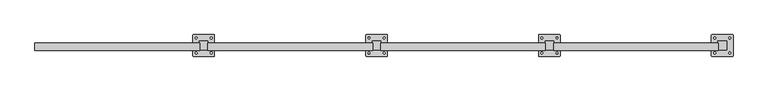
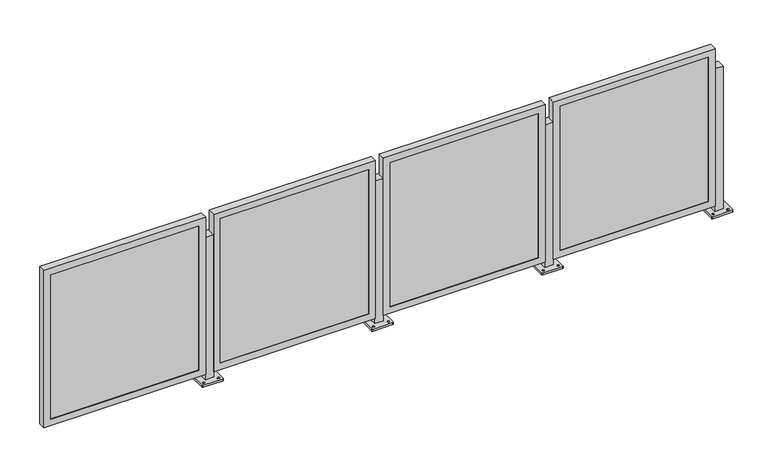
"""IFC4 building model written with IfcOpenShell, lengths in millimetres: railing geometry."""

from ifc_helpers import new_model, si_unit, frame, origin, place, context, project, spatial, polyline, circle_curve, outline, extrude, faceted_brep, source, transform, mapped, element, save
from ifc_brep_helpers import plane_surface, cylinder_surface, revolved_surface, advanced_brep


def railing_f29662bd(model_context):
    return source(origin(), model_context, "Body", "SolidModel", [
        advanced_brep(
        [(-22902.3219217, 2095.5584175, 914.4), (-22902.3219217, 2044.7584175, 914.4), (-22851.5219217, 2044.7584175, 914.4), (-22851.5219217, 2095.5584175, 914.4), (-22940.4219219, 2009.8334586, 0.0), (-22940.4219219, 2130.4833765, 0.0), (-22937.2468937, 2133.6584047, 0.0), (-22816.5969497, 2133.6584047, 0.0), (-22813.4219216, 2130.4833765, 0.0), (-22813.4219216, 2009.8334586, 0.0), (-22816.5969497, 2006.6584304, 0.0), (-22937.2468937, 2006.6584304, 0.0), (-22921.3719093, 2020.1521629, 0.0), (-22921.3719093, 2031.2646753, 0.0), (-22921.3719202, 2109.0521673, 0.0), (-22921.3719202, 2120.1646489, 0.0), (-22832.4719083, 2020.1521644, 0.0), (-22832.4719083, 2031.2646751, 0.0), (-22832.4719192, 2109.0521688, 0.0), (-22832.4719192, 2120.1646486, 0.0), (-22902.3219217, 2095.5584175, 12.7), (-22902.3219217, 2044.7584175, 12.7), (-22851.5219217, 2044.7584175, 12.7), (-22851.5219217, 2095.5584175, 12.7), (-22940.4219219, 2009.8334586, 12.7), (-22937.2468937, 2006.6584304, 12.7), (-22816.5969497, 2006.6584304, 12.7), (-22813.4219216, 2009.8334586, 12.7), (-22813.4219216, 2130.4833765, 12.7), (-22816.5969497, 2133.6584047, 12.7), (-22937.2468937, 2133.6584047, 12.7), (-22940.4219219, 2130.4833765, 12.7), (-22921.3719093, 2020.1521629, 12.7), (-22921.3719093, 2031.2646753, 12.7), (-22921.3719202, 2109.0521673, 12.7), (-22921.3719202, 2120.1646489, 12.7), (-22832.4719083, 2020.1521644, 12.7), (-22832.4719083, 2031.2646751, 12.7), (-22832.4719192, 2109.0521688, 12.7), (-22832.4719192, 2120.1646486, 12.7)],
        [
            (0, 1),
            (1, 2),
            (2, 3),
            (3, 0),
            (4, 5),
            (5, 6, circle_curve(frame((-22937.2468937, 2130.4833765, 0.0), z_axis=(0.0, 0.0, -1.0), x_axis=(0.0, 1.0, 0.0)), 3.1750282)),
            (6, 7),
            (7, 8, circle_curve(frame((-22816.5969497, 2130.4833765, 0.0), z_axis=(0.0, 0.0, -1.0), x_axis=(0.0, 1.0, 0.0)), 3.1750282)),
            (8, 9),
            (9, 10, circle_curve(frame((-22816.5969497, 2009.8334586, 0.0), z_axis=(0.0, 0.0, -1.0), x_axis=(0.0, 1.0, 0.0)), 3.1750282)),
            (10, 11),
            (11, 4, circle_curve(frame((-22937.2468937, 2009.8334586, 0.0), z_axis=(0.0, 0.0, -1.0), x_axis=(0.0, 1.0, 0.0)), 3.1750282)),
            (12, 13, circle_curve(frame((-22921.3719093, 2025.7084191, 0.0), z_axis=(0.0, 0.0, 1.0), x_axis=(0.0, 1.0, 0.0)), 5.5562562)),
            (13, 12, circle_curve(frame((-22921.3719093, 2025.7084191, 0.0), z_axis=(0.0, 0.0, 1.0), x_axis=(0.0, 1.0, 0.0)), 5.5562562)),
            (14, 15, circle_curve(frame((-22921.3719202, 2114.6084081, 0.0), z_axis=(0.0, 0.0, 1.0), x_axis=(0.0, 1.0, 0.0)), 5.5562408)),
            (15, 14, circle_curve(frame((-22921.3719202, 2114.6084081, 0.0), z_axis=(0.0, 0.0, 1.0), x_axis=(0.0, 1.0, 0.0)), 5.5562408)),
            (16, 17, circle_curve(frame((-22832.4719083, 2025.7084197, 0.0), z_axis=(0.0, 0.0, 1.0), x_axis=(0.0, 1.0, 0.0)), 5.5562553)),
            (17, 16, circle_curve(frame((-22832.4719083, 2025.7084197, 0.0), z_axis=(0.0, 0.0, 1.0), x_axis=(0.0, 1.0, 0.0)), 5.5562553)),
            (18, 19, circle_curve(frame((-22832.4719192, 2114.6084087, 0.0), z_axis=(0.0, 0.0, 1.0), x_axis=(0.0, 1.0, 0.0)), 5.5562399)),
            (19, 18, circle_curve(frame((-22832.4719192, 2114.6084087, 0.0), z_axis=(0.0, 0.0, 1.0), x_axis=(0.0, 1.0, 0.0)), 5.5562399)),
            (0, 20),
            (20, 21),
            (21, 1),
            (21, 22),
            (22, 2),
            (22, 23),
            (23, 3),
            (23, 20),
            (24, 25, circle_curve(frame((-22937.2468937, 2009.8334586, 12.7), z_axis=(0.0, 0.0, 1.0), x_axis=(0.0, 1.0, 0.0)), 3.1750282)),
            (25, 26),
            (26, 27, circle_curve(frame((-22816.5969497, 2009.8334586, 12.7), z_axis=(0.0, 0.0, 1.0), x_axis=(0.0, 1.0, 0.0)), 3.1750282)),
            (27, 28),
            (28, 29, circle_curve(frame((-22816.5969497, 2130.4833765, 12.7), z_axis=(0.0, 0.0, 1.0), x_axis=(0.0, 1.0, 0.0)), 3.1750282)),
            (29, 30),
            (30, 31, circle_curve(frame((-22937.2468937, 2130.4833765, 12.7), z_axis=(0.0, 0.0, 1.0), x_axis=(0.0, 1.0, 0.0)), 3.1750282)),
            (31, 24),
            (32, 33, circle_curve(frame((-22921.3719093, 2025.7084191, 12.7), z_axis=(0.0, 0.0, -1.0), x_axis=(0.0, 1.0, 0.0)), 5.5562562)),
            (33, 32, circle_curve(frame((-22921.3719093, 2025.7084191, 12.7), z_axis=(0.0, 0.0, -1.0), x_axis=(0.0, 1.0, 0.0)), 5.5562562)),
            (34, 35, circle_curve(frame((-22921.3719202, 2114.6084081, 12.7), z_axis=(0.0, 0.0, -1.0), x_axis=(0.0, 1.0, 0.0)), 5.5562408)),
            (35, 34, circle_curve(frame((-22921.3719202, 2114.6084081, 12.7), z_axis=(0.0, 0.0, -1.0), x_axis=(0.0, 1.0, 0.0)), 5.5562408)),
            (36, 37, circle_curve(frame((-22832.4719083, 2025.7084197, 12.7), z_axis=(0.0, 0.0, -1.0), x_axis=(0.0, 1.0, 0.0)), 5.5562553)),
            (37, 36, circle_curve(frame((-22832.4719083, 2025.7084197, 12.7), z_axis=(0.0, 0.0, -1.0), x_axis=(0.0, 1.0, 0.0)), 5.5562553)),
            (38, 39, circle_curve(frame((-22832.4719192, 2114.6084087, 12.7), z_axis=(0.0, 0.0, -1.0), x_axis=(0.0, 1.0, 0.0)), 5.5562399)),
            (39, 38, circle_curve(frame((-22832.4719192, 2114.6084087, 12.7), z_axis=(0.0, 0.0, -1.0), x_axis=(0.0, 1.0, 0.0)), 5.5562399)),
            (24, 4),
            (11, 25),
            (10, 26),
            (9, 27),
            (8, 28),
            (7, 29),
            (6, 30),
            (5, 31),
            (32, 12),
            (13, 33),
            (34, 14),
            (15, 35),
            (36, 16),
            (17, 37),
            (38, 18),
            (19, 39),
        ],
        [
            plane_surface(frame((-22902.3219217, 2044.7584175, 914.4), z_axis=(0.0, 0.0, 1.0), x_axis=(0.0, -1.0, 0.0))),
            plane_surface(frame((-22902.3219217, 2044.7584175, 0.0), z_axis=(0.0, 0.0, -1.0), x_axis=(0.0, 1.0, 0.0))),
            plane_surface(frame((-22902.3219217, 2095.5584175, 914.4), z_axis=(-1.0, 0.0, 0.0), x_axis=(0.0, 0.0, -1.0))),
            plane_surface(frame((-22902.3219217, 2044.7584175, 914.4), z_axis=(0.0, -1.0, 0.0), x_axis=(0.0, 0.0, -1.0))),
            plane_surface(frame((-22851.5219217, 2044.7584175, 914.4), z_axis=(1.0, 0.0, 0.0), x_axis=(0.0, 0.0, -1.0))),
            plane_surface(frame((-22851.5219217, 2095.5584175, 914.4), z_axis=(0.0, 1.0, 0.0), x_axis=(0.0, 0.0, -1.0))),
            plane_surface(frame((-22937.2468937, 2013.0084867, 12.7), z_axis=(0.0, 0.0, 1.0), x_axis=(-1.0, 0.0, 0.0))),
            cylinder_surface(frame((-22937.2468937, 2009.8334586, 0.0), z_axis=(0.0, 0.0, 1.0), x_axis=(0.0, 1.0, 0.0)), 3.1750282),
            plane_surface(frame((-22937.2468937, 2006.6584304, 12.7), z_axis=(1.1945386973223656e-12, -1.0, 0.0), x_axis=(0.0, 0.0, -1.0))),
            cylinder_surface(frame((-22816.5969497, 2009.8334586, 0.0), z_axis=(0.0, 0.0, 1.0), x_axis=(0.0, 1.0, 0.0)), 3.1750282),
            plane_surface(frame((-22813.4219216, 2009.8334586, 12.7), z_axis=(1.0, 0.0, 0.0), x_axis=(0.0, 0.0, -1.0))),
            cylinder_surface(frame((-22816.5969497, 2130.4833765, 0.0), z_axis=(0.0, 0.0, 1.0), x_axis=(0.0, 1.0, 0.0)), 3.1750282),
            plane_surface(frame((-22816.5969497, 2133.6584047, 12.7), z_axis=(-1.1946088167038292e-12, 1.0, 0.0), x_axis=(0.0, 0.0, -1.0))),
            cylinder_surface(frame((-22937.2468937, 2130.4833765, 0.0), z_axis=(0.0, 0.0, 1.0), x_axis=(0.0, 1.0, 0.0)), 3.1750282),
            plane_surface(frame((-22940.4219219, 2130.4833765, 12.7), z_axis=(-1.0, 0.0, 0.0), x_axis=(0.0, 0.0, -1.0))),
            revolved_surface(polyline([(-22921.3719093, 2031.2646753, 0.0), (-22921.3719093, 2031.2646753, 12.7)]), (-22921.3719093, 2025.7084191, 0.0), (0.0, 0.0, -1.0)),
            revolved_surface(polyline([(-22921.3719202, 2120.1646489, 0.0), (-22921.3719202, 2120.1646489, 12.7)]), (-22921.3719202, 2114.6084081, 0.0), (0.0, 0.0, -1.0)),
            revolved_surface(polyline([(-22832.4719083, 2031.264675, 0.0), (-22832.4719083, 2031.264675, 12.7)]), (-22832.4719083, 2025.7084197, 0.0), (0.0, 0.0, -1.0)),
            revolved_surface(polyline([(-22832.4719192, 2120.1646486, 0.0), (-22832.4719192, 2120.1646486, 12.7)]), (-22832.4719192, 2114.6084087, 0.0), (0.0, 0.0, -1.0)),
        ],
        [
            (0, [[1, 2, 3, 4]]),
            (1, [[5, 6, 7, 8, 9, 10, 11, 12], [13, 14], [15, 16], [17, 18], [19, 20]]),
            (2, [[-1, 21, 22, 23]]),
            (3, [[-2, -23, 24, 25]]),
            (4, [[-3, -25, 26, 27]]),
            (5, [[-4, -27, 28, -21]]),
            (6, [[29, 30, 31, 32, 33, 34, 35, 36], [-22, -28, -26, -24], [37, 38], [39, 40], [41, 42], [43, 44]]),
            (7, [[-29, 45, -12, 46]]),
            (8, [[-30, -46, -11, 47]]),
            (9, [[-31, -47, -10, 48]]),
            (10, [[-32, -48, -9, 49]]),
            (11, [[-33, -49, -8, 50]]),
            (12, [[-34, -50, -7, 51]]),
            (13, [[-35, -51, -6, 52]]),
            (14, [[-36, -52, -5, -45]]),
            (15, [[-37, 53, -14, 54]]),
            (15, [[-38, -54, -13, -53]]),
            (16, [[-39, 55, -16, 56]]),
            (16, [[-40, -56, -15, -55]]),
            (17, [[-41, 57, -18, 58]]),
            (17, [[-42, -58, -17, -57]]),
            (18, [[-43, 59, -20, 60]]),
            (18, [[-44, -60, -19, -59]]),
        ],
    ),
        faceted_brep([(-23868.7263751, 2042.0152175, 47.625), (-22900.3513751, 2042.0152175, 47.625), (-22900.3513751, 2042.0152175, 1044.575), (-23868.7263751, 2042.0152175, 1044.575), (-23827.4513751, 2042.0152175, 1003.3), (-22941.6263751, 2042.0152175, 1003.3), (-22941.6263751, 2042.0152175, 88.9), (-23827.4513751, 2042.0152175, 88.9), (-23827.4513751, 2044.7584175, 1003.3), (-23827.4513751, 2044.7584175, 88.9), (-23868.7263751, 2085.8885141, 1044.575), (-23868.7263751, 2085.8885141, 47.625), (-23865.5513751, 2085.8885141, 1041.4), (-23865.5513751, 2044.7584175, 1041.4), (-23865.5513751, 2044.7584175, 50.8), (-23865.5513751, 2085.8885141, 50.8), (-22941.6263751, 2044.7584175, 88.9), (-22900.3513751, 2085.8885141, 47.625), (-22903.5263751, 2044.7584175, 50.8), (-22903.5263751, 2085.8885141, 50.8), (-22941.6263751, 2044.7584175, 1003.3), (-22900.3513751, 2085.8885141, 1044.575), (-22903.5263751, 2044.7584175, 1041.4), (-22903.5263751, 2085.8885141, 1041.4)], [[[0, 1, 2, 3], [4, 5, 6, 7]], [[8, 4, 7, 9]], [[3, 10, 11, 0]], [[12, 13, 14, 15]], [[9, 7, 6, 16]], [[0, 11, 17, 1]], [[15, 14, 18, 19]], [[16, 6, 5, 20]], [[1, 17, 21, 2]], [[19, 18, 22, 23]], [[20, 5, 4, 8]], [[10, 21, 17, 11], [15, 19, 23, 12]], [[2, 21, 10, 3]], [[13, 22, 18, 14], [9, 16, 20, 8]], [[23, 22, 13, 12]]]),
        extrude(outline(polyline([(-23865.5513751, 2054.2834175), (-22903.5263751, 2054.2834175), (-22903.5263751, 2044.7584175), (-23865.5513751, 2044.7584175), (-23865.5513751, 2054.2834175)])), frame((0.0, 0.0, 50.8), z_axis=(0.0, 0.0, 1.0), x_axis=(1.0, 0.0, 0.0)), (0.0, 0.0, 1.0), 990.6),
        advanced_brep(
        [(-23918.3219217, 2095.5584175, 914.4), (-23918.3219217, 2044.7584175, 914.4), (-23867.5219217, 2044.7584175, 914.4), (-23867.5219217, 2095.5584175, 914.4), (-23956.4219219, 2009.8334586, 0.0), (-23956.4219219, 2130.4833765, 0.0), (-23953.2468937, 2133.6584047, 0.0), (-23832.5969497, 2133.6584047, 0.0), (-23829.4219216, 2130.4833765, 0.0), (-23829.4219216, 2009.8334586, 0.0), (-23832.5969497, 2006.6584304, 0.0), (-23953.2468937, 2006.6584304, 0.0), (-23937.3719093, 2020.1521629, 0.0), (-23937.3719093, 2031.2646753, 0.0), (-23937.3719202, 2109.0521673, 0.0), (-23937.3719202, 2120.1646489, 0.0), (-23848.4719083, 2020.1521644, 0.0), (-23848.4719083, 2031.2646751, 0.0), (-23848.4719192, 2109.0521688, 0.0), (-23848.4719192, 2120.1646486, 0.0), (-23918.3219217, 2095.5584175, 12.7), (-23918.3219217, 2044.7584175, 12.7), (-23867.5219217, 2044.7584175, 12.7), (-23867.5219217, 2095.5584175, 12.7), (-23956.4219219, 2009.8334586, 12.7), (-23953.2468937, 2006.6584304, 12.7), (-23832.5969497, 2006.6584304, 12.7), (-23829.4219216, 2009.8334586, 12.7), (-23829.4219216, 2130.4833765, 12.7), (-23832.5969497, 2133.6584047, 12.7), (-23953.2468937, 2133.6584047, 12.7), (-23956.4219219, 2130.4833765, 12.7), (-23937.3719093, 2020.1521629, 12.7), (-23937.3719093, 2031.2646753, 12.7), (-23937.3719202, 2109.0521673, 12.7), (-23937.3719202, 2120.1646489, 12.7), (-23848.4719083, 2020.1521644, 12.7), (-23848.4719083, 2031.2646751, 12.7), (-23848.4719192, 2109.0521688, 12.7), (-23848.4719192, 2120.1646486, 12.7)],
        [
            (0, 1),
            (1, 2),
            (2, 3),
            (3, 0),
            (4, 5),
            (5, 6, circle_curve(frame((-23953.2468937, 2130.4833765, 0.0), z_axis=(0.0, 0.0, -1.0), x_axis=(0.0, 1.0, 0.0)), 3.1750282)),
            (6, 7),
            (7, 8, circle_curve(frame((-23832.5969497, 2130.4833765, 0.0), z_axis=(0.0, 0.0, -1.0), x_axis=(0.0, 1.0, 0.0)), 3.1750282)),
            (8, 9),
            (9, 10, circle_curve(frame((-23832.5969497, 2009.8334586, 0.0), z_axis=(0.0, 0.0, -1.0), x_axis=(0.0, 1.0, 0.0)), 3.1750282)),
            (10, 11),
            (11, 4, circle_curve(frame((-23953.2468937, 2009.8334586, 0.0), z_axis=(0.0, 0.0, -1.0), x_axis=(0.0, 1.0, 0.0)), 3.1750282)),
            (12, 13, circle_curve(frame((-23937.3719093, 2025.7084191, 0.0), z_axis=(0.0, 0.0, 1.0), x_axis=(0.0, 1.0, 0.0)), 5.5562562)),
            (13, 12, circle_curve(frame((-23937.3719093, 2025.7084191, 0.0), z_axis=(0.0, 0.0, 1.0), x_axis=(0.0, 1.0, 0.0)), 5.5562562)),
            (14, 15, circle_curve(frame((-23937.3719202, 2114.6084081, 0.0), z_axis=(0.0, 0.0, 1.0), x_axis=(0.0, 1.0, 0.0)), 5.5562408)),
            (15, 14, circle_curve(frame((-23937.3719202, 2114.6084081, 0.0), z_axis=(0.0, 0.0, 1.0), x_axis=(0.0, 1.0, 0.0)), 5.5562408)),
            (16, 17, circle_curve(frame((-23848.4719083, 2025.7084197, 0.0), z_axis=(0.0, 0.0, 1.0), x_axis=(0.0, 1.0, 0.0)), 5.5562553)),
            (17, 16, circle_curve(frame((-23848.4719083, 2025.7084197, 0.0), z_axis=(0.0, 0.0, 1.0), x_axis=(0.0, 1.0, 0.0)), 5.5562553)),
            (18, 19, circle_curve(frame((-23848.4719192, 2114.6084087, 0.0), z_axis=(0.0, 0.0, 1.0), x_axis=(0.0, 1.0, 0.0)), 5.5562399)),
            (19, 18, circle_curve(frame((-23848.4719192, 2114.6084087, 0.0), z_axis=(0.0, 0.0, 1.0), x_axis=(0.0, 1.0, 0.0)), 5.5562399)),
            (0, 20),
            (20, 21),
            (21, 1),
            (21, 22),
            (22, 2),
            (22, 23),
            (23, 3),
            (23, 20),
            (24, 25, circle_curve(frame((-23953.2468937, 2009.8334586, 12.7), z_axis=(0.0, 0.0, 1.0), x_axis=(0.0, 1.0, 0.0)), 3.1750282)),
            (25, 26),
            (26, 27, circle_curve(frame((-23832.5969497, 2009.8334586, 12.7), z_axis=(0.0, 0.0, 1.0), x_axis=(0.0, 1.0, 0.0)), 3.1750282)),
            (27, 28),
            (28, 29, circle_curve(frame((-23832.5969497, 2130.4833765, 12.7), z_axis=(0.0, 0.0, 1.0), x_axis=(0.0, 1.0, 0.0)), 3.1750282)),
            (29, 30),
            (30, 31, circle_curve(frame((-23953.2468937, 2130.4833765, 12.7), z_axis=(0.0, 0.0, 1.0), x_axis=(0.0, 1.0, 0.0)), 3.1750282)),
            (31, 24),
            (32, 33, circle_curve(frame((-23937.3719093, 2025.7084191, 12.7), z_axis=(0.0, 0.0, -1.0), x_axis=(0.0, 1.0, 0.0)), 5.5562562)),
            (33, 32, circle_curve(frame((-23937.3719093, 2025.7084191, 12.7), z_axis=(0.0, 0.0, -1.0), x_axis=(0.0, 1.0, 0.0)), 5.5562562)),
            (34, 35, circle_curve(frame((-23937.3719202, 2114.6084081, 12.7), z_axis=(0.0, 0.0, -1.0), x_axis=(0.0, 1.0, 0.0)), 5.5562408)),
            (35, 34, circle_curve(frame((-23937.3719202, 2114.6084081, 12.7), z_axis=(0.0, 0.0, -1.0), x_axis=(0.0, 1.0, 0.0)), 5.5562408)),
            (36, 37, circle_curve(frame((-23848.4719083, 2025.7084197, 12.7), z_axis=(0.0, 0.0, -1.0), x_axis=(0.0, 1.0, 0.0)), 5.5562553)),
            (37, 36, circle_curve(frame((-23848.4719083, 2025.7084197, 12.7), z_axis=(0.0, 0.0, -1.0), x_axis=(0.0, 1.0, 0.0)), 5.5562553)),
            (38, 39, circle_curve(frame((-23848.4719192, 2114.6084087, 12.7), z_axis=(0.0, 0.0, -1.0), x_axis=(0.0, 1.0, 0.0)), 5.5562399)),
            (39, 38, circle_curve(frame((-23848.4719192, 2114.6084087, 12.7), z_axis=(0.0, 0.0, -1.0), x_axis=(0.0, 1.0, 0.0)), 5.5562399)),
            (24, 4),
            (11, 25),
            (10, 26),
            (9, 27),
            (8, 28),
            (7, 29),
            (6, 30),
            (5, 31),
            (32, 12),
            (13, 33),
            (34, 14),
            (15, 35),
            (36, 16),
            (17, 37),
            (38, 18),
            (19, 39),
        ],
        [
            plane_surface(frame((-23918.3219217, 2044.7584175, 914.4), z_axis=(0.0, 0.0, 1.0), x_axis=(0.0, -1.0, 0.0))),
            plane_surface(frame((-23918.3219217, 2044.7584175, 0.0), z_axis=(0.0, 0.0, -1.0), x_axis=(0.0, 1.0, 0.0))),
            plane_surface(frame((-23918.3219217, 2095.5584175, 914.4), z_axis=(-1.0, 0.0, 0.0), x_axis=(0.0, 0.0, -1.0))),
            plane_surface(frame((-23918.3219217, 2044.7584175, 914.4), z_axis=(0.0, -1.0, 0.0), x_axis=(0.0, 0.0, -1.0))),
            plane_surface(frame((-23867.5219217, 2044.7584175, 914.4), z_axis=(1.0, 0.0, 0.0), x_axis=(0.0, 0.0, -1.0))),
            plane_surface(frame((-23867.5219217, 2095.5584175, 914.4), z_axis=(0.0, 1.0, 0.0), x_axis=(0.0, 0.0, -1.0))),
            plane_surface(frame((-23953.2468937, 2013.0084867, 12.7), z_axis=(0.0, 0.0, 1.0), x_axis=(-1.0, 0.0, 0.0))),
            cylinder_surface(frame((-23953.2468937, 2009.8334586, 0.0), z_axis=(0.0, 0.0, 1.0), x_axis=(0.0, 1.0, 0.0)), 3.1750282),
            plane_surface(frame((-23953.2468937, 2006.6584304, 12.7), z_axis=(1.1945386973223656e-12, -1.0, 0.0), x_axis=(0.0, 0.0, -1.0))),
            cylinder_surface(frame((-23832.5969497, 2009.8334586, 0.0), z_axis=(0.0, 0.0, 1.0), x_axis=(0.0, 1.0, 0.0)), 3.1750282),
            plane_surface(frame((-23829.4219216, 2009.8334586, 12.7), z_axis=(1.0, 0.0, 0.0), x_axis=(0.0, 0.0, -1.0))),
            cylinder_surface(frame((-23832.5969497, 2130.4833765, 0.0), z_axis=(0.0, 0.0, 1.0), x_axis=(0.0, 1.0, 0.0)), 3.1750282),
            plane_surface(frame((-23832.5969497, 2133.6584047, 12.7), z_axis=(-1.1946088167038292e-12, 1.0, 0.0), x_axis=(0.0, 0.0, -1.0))),
            cylinder_surface(frame((-23953.2468937, 2130.4833765, 0.0), z_axis=(0.0, 0.0, 1.0), x_axis=(0.0, 1.0, 0.0)), 3.1750282),
            plane_surface(frame((-23956.4219219, 2130.4833765, 12.7), z_axis=(-1.0, 0.0, 0.0), x_axis=(0.0, 0.0, -1.0))),
            revolved_surface(polyline([(-23937.3719093, 2031.2646753, 0.0), (-23937.3719093, 2031.2646753, 12.7)]), (-23937.3719093, 2025.7084191, 0.0), (0.0, 0.0, -1.0)),
            revolved_surface(polyline([(-23937.3719202, 2120.1646489, 0.0), (-23937.3719202, 2120.1646489, 12.7)]), (-23937.3719202, 2114.6084081, 0.0), (0.0, 0.0, -1.0)),
            revolved_surface(polyline([(-23848.4719083, 2031.264675, 0.0), (-23848.4719083, 2031.264675, 12.7)]), (-23848.4719083, 2025.7084197, 0.0), (0.0, 0.0, -1.0)),
            revolved_surface(polyline([(-23848.4719192, 2120.1646486, 0.0), (-23848.4719192, 2120.1646486, 12.7)]), (-23848.4719192, 2114.6084087, 0.0), (0.0, 0.0, -1.0)),
        ],
        [
            (0, [[1, 2, 3, 4]]),
            (1, [[5, 6, 7, 8, 9, 10, 11, 12], [13, 14], [15, 16], [17, 18], [19, 20]]),
            (2, [[-1, 21, 22, 23]]),
            (3, [[-2, -23, 24, 25]]),
            (4, [[-3, -25, 26, 27]]),
            (5, [[-4, -27, 28, -21]]),
            (6, [[29, 30, 31, 32, 33, 34, 35, 36], [-22, -28, -26, -24], [37, 38], [39, 40], [41, 42], [43, 44]]),
            (7, [[-29, 45, -12, 46]]),
            (8, [[-30, -46, -11, 47]]),
            (9, [[-31, -47, -10, 48]]),
            (10, [[-32, -48, -9, 49]]),
            (11, [[-33, -49, -8, 50]]),
            (12, [[-34, -50, -7, 51]]),
            (13, [[-35, -51, -6, 52]]),
            (14, [[-36, -52, -5, -45]]),
            (15, [[-37, 53, -14, 54]]),
            (15, [[-38, -54, -13, -53]]),
            (16, [[-39, 55, -16, 56]]),
            (16, [[-40, -56, -15, -55]]),
            (17, [[-41, 57, -18, 58]]),
            (17, [[-42, -58, -17, -57]]),
            (18, [[-43, 59, -20, 60]]),
            (18, [[-44, -60, -19, -59]]),
        ],
    ),
        faceted_brep([(-24884.7263751, 2042.0152175, 47.625), (-23916.3513751, 2042.0152175, 47.625), (-23916.3513751, 2042.0152175, 1044.575), (-24884.7263751, 2042.0152175, 1044.575), (-24843.4513751, 2042.0152175, 1003.3), (-23957.6263751, 2042.0152175, 1003.3), (-23957.6263751, 2042.0152175, 88.9), (-24843.4513751, 2042.0152175, 88.9), (-24843.4513751, 2044.7584175, 1003.3), (-24843.4513751, 2044.7584175, 88.9), (-24884.7263751, 2085.8885141, 1044.575), (-24884.7263751, 2085.8885141, 47.625), (-24881.5513751, 2085.8885141, 1041.4), (-24881.5513751, 2044.7584175, 1041.4), (-24881.5513751, 2044.7584175, 50.8), (-24881.5513751, 2085.8885141, 50.8), (-23957.6263751, 2044.7584175, 88.9), (-23916.3513751, 2085.8885141, 47.625), (-23919.5263751, 2044.7584175, 50.8), (-23919.5263751, 2085.8885141, 50.8), (-23957.6263751, 2044.7584175, 1003.3), (-23916.3513751, 2085.8885141, 1044.575), (-23919.5263751, 2044.7584175, 1041.4), (-23919.5263751, 2085.8885141, 1041.4)], [[[0, 1, 2, 3], [4, 5, 6, 7]], [[8, 4, 7, 9]], [[3, 10, 11, 0]], [[12, 13, 14, 15]], [[9, 7, 6, 16]], [[0, 11, 17, 1]], [[15, 14, 18, 19]], [[16, 6, 5, 20]], [[1, 17, 21, 2]], [[19, 18, 22, 23]], [[20, 5, 4, 8]], [[10, 21, 17, 11], [15, 19, 23, 12]], [[2, 21, 10, 3]], [[13, 22, 18, 14], [9, 16, 20, 8]], [[23, 22, 13, 12]]]),
        extrude(outline(polyline([(-24881.5513751, 2054.2834175), (-23919.5263751, 2054.2834175), (-23919.5263751, 2044.7584175), (-24881.5513751, 2044.7584175), (-24881.5513751, 2054.2834175)])), frame((0.0, 0.0, 50.8), z_axis=(0.0, 0.0, 1.0), x_axis=(1.0, 0.0, 0.0)), (0.0, 0.0, 1.0), 990.6),
        advanced_brep(
        [(-24934.3219217, 2095.5584175, 914.4), (-24934.3219217, 2044.7584175, 914.4), (-24883.5219217, 2044.7584175, 914.4), (-24883.5219217, 2095.5584175, 914.4), (-24972.4219219, 2009.8334586, 0.0), (-24972.4219219, 2130.4833765, 0.0), (-24969.2468937, 2133.6584047, 0.0), (-24848.5969497, 2133.6584047, 0.0), (-24845.4219216, 2130.4833765, 0.0), (-24845.4219216, 2009.8334586, 0.0), (-24848.5969497, 2006.6584304, 0.0), (-24969.2468937, 2006.6584304, 0.0), (-24953.3719093, 2020.1521629, 0.0), (-24953.3719093, 2031.2646753, 0.0), (-24953.3719202, 2109.0521673, 0.0), (-24953.3719202, 2120.1646489, 0.0), (-24864.4719083, 2020.1521644, 0.0), (-24864.4719083, 2031.2646751, 0.0), (-24864.4719192, 2109.0521688, 0.0), (-24864.4719192, 2120.1646486, 0.0), (-24934.3219217, 2095.5584175, 12.7), (-24934.3219217, 2044.7584175, 12.7), (-24883.5219217, 2044.7584175, 12.7), (-24883.5219217, 2095.5584175, 12.7), (-24972.4219219, 2009.8334586, 12.7), (-24969.2468937, 2006.6584304, 12.7), (-24848.5969497, 2006.6584304, 12.7), (-24845.4219216, 2009.8334586, 12.7), (-24845.4219216, 2130.4833765, 12.7), (-24848.5969497, 2133.6584047, 12.7), (-24969.2468937, 2133.6584047, 12.7), (-24972.4219219, 2130.4833765, 12.7), (-24953.3719093, 2020.1521629, 12.7), (-24953.3719093, 2031.2646753, 12.7), (-24953.3719202, 2109.0521673, 12.7), (-24953.3719202, 2120.1646489, 12.7), (-24864.4719083, 2020.1521644, 12.7), (-24864.4719083, 2031.2646751, 12.7), (-24864.4719192, 2109.0521688, 12.7), (-24864.4719192, 2120.1646486, 12.7)],
        [
            (0, 1),
            (1, 2),
            (2, 3),
            (3, 0),
            (4, 5),
            (5, 6, circle_curve(frame((-24969.2468937, 2130.4833765, 0.0), z_axis=(0.0, 0.0, -1.0), x_axis=(0.0, 1.0, 0.0)), 3.1750282)),
            (6, 7),
            (7, 8, circle_curve(frame((-24848.5969497, 2130.4833765, 0.0), z_axis=(0.0, 0.0, -1.0), x_axis=(0.0, 1.0, 0.0)), 3.1750282)),
            (8, 9),
            (9, 10, circle_curve(frame((-24848.5969497, 2009.8334586, 0.0), z_axis=(0.0, 0.0, -1.0), x_axis=(0.0, 1.0, 0.0)), 3.1750282)),
            (10, 11),
            (11, 4, circle_curve(frame((-24969.2468937, 2009.8334586, 0.0), z_axis=(0.0, 0.0, -1.0), x_axis=(0.0, 1.0, 0.0)), 3.1750282)),
            (12, 13, circle_curve(frame((-24953.3719093, 2025.7084191, 0.0), z_axis=(0.0, 0.0, 1.0), x_axis=(0.0, 1.0, 0.0)), 5.5562562)),
            (13, 12, circle_curve(frame((-24953.3719093, 2025.7084191, 0.0), z_axis=(0.0, 0.0, 1.0), x_axis=(0.0, 1.0, 0.0)), 5.5562562)),
            (14, 15, circle_curve(frame((-24953.3719202, 2114.6084081, 0.0), z_axis=(0.0, 0.0, 1.0), x_axis=(0.0, 1.0, 0.0)), 5.5562408)),
            (15, 14, circle_curve(frame((-24953.3719202, 2114.6084081, 0.0), z_axis=(0.0, 0.0, 1.0), x_axis=(0.0, 1.0, 0.0)), 5.5562408)),
            (16, 17, circle_curve(frame((-24864.4719083, 2025.7084197, 0.0), z_axis=(0.0, 0.0, 1.0), x_axis=(0.0, 1.0, 0.0)), 5.5562553)),
            (17, 16, circle_curve(frame((-24864.4719083, 2025.7084197, 0.0), z_axis=(0.0, 0.0, 1.0), x_axis=(0.0, 1.0, 0.0)), 5.5562553)),
            (18, 19, circle_curve(frame((-24864.4719192, 2114.6084087, 0.0), z_axis=(0.0, 0.0, 1.0), x_axis=(0.0, 1.0, 0.0)), 5.5562399)),
            (19, 18, circle_curve(frame((-24864.4719192, 2114.6084087, 0.0), z_axis=(0.0, 0.0, 1.0), x_axis=(0.0, 1.0, 0.0)), 5.5562399)),
            (0, 20),
            (20, 21),
            (21, 1),
            (21, 22),
            (22, 2),
            (22, 23),
            (23, 3),
            (23, 20),
            (24, 25, circle_curve(frame((-24969.2468937, 2009.8334586, 12.7), z_axis=(0.0, 0.0, 1.0), x_axis=(0.0, 1.0, 0.0)), 3.1750282)),
            (25, 26),
            (26, 27, circle_curve(frame((-24848.5969497, 2009.8334586, 12.7), z_axis=(0.0, 0.0, 1.0), x_axis=(0.0, 1.0, 0.0)), 3.1750282)),
            (27, 28),
            (28, 29, circle_curve(frame((-24848.5969497, 2130.4833765, 12.7), z_axis=(0.0, 0.0, 1.0), x_axis=(0.0, 1.0, 0.0)), 3.1750282)),
            (29, 30),
            (30, 31, circle_curve(frame((-24969.2468937, 2130.4833765, 12.7), z_axis=(0.0, 0.0, 1.0), x_axis=(0.0, 1.0, 0.0)), 3.1750282)),
            (31, 24),
            (32, 33, circle_curve(frame((-24953.3719093, 2025.7084191, 12.7), z_axis=(0.0, 0.0, -1.0), x_axis=(0.0, 1.0, 0.0)), 5.5562562)),
            (33, 32, circle_curve(frame((-24953.3719093, 2025.7084191, 12.7), z_axis=(0.0, 0.0, -1.0), x_axis=(0.0, 1.0, 0.0)), 5.5562562)),
            (34, 35, circle_curve(frame((-24953.3719202, 2114.6084081, 12.7), z_axis=(0.0, 0.0, -1.0), x_axis=(0.0, 1.0, 0.0)), 5.5562408)),
            (35, 34, circle_curve(frame((-24953.3719202, 2114.6084081, 12.7), z_axis=(0.0, 0.0, -1.0), x_axis=(0.0, 1.0, 0.0)), 5.5562408)),
            (36, 37, circle_curve(frame((-24864.4719083, 2025.7084197, 12.7), z_axis=(0.0, 0.0, -1.0), x_axis=(0.0, 1.0, 0.0)), 5.5562553)),
            (37, 36, circle_curve(frame((-24864.4719083, 2025.7084197, 12.7), z_axis=(0.0, 0.0, -1.0), x_axis=(0.0, 1.0, 0.0)), 5.5562553)),
            (38, 39, circle_curve(frame((-24864.4719192, 2114.6084087, 12.7), z_axis=(0.0, 0.0, -1.0), x_axis=(0.0, 1.0, 0.0)), 5.5562399)),
            (39, 38, circle_curve(frame((-24864.4719192, 2114.6084087, 12.7), z_axis=(0.0, 0.0, -1.0), x_axis=(0.0, 1.0, 0.0)), 5.5562399)),
            (24, 4),
            (11, 25),
            (10, 26),
            (9, 27),
            (8, 28),
            (7, 29),
            (6, 30),
            (5, 31),
            (32, 12),
            (13, 33),
            (34, 14),
            (15, 35),
            (36, 16),
            (17, 37),
            (38, 18),
            (19, 39),
        ],
        [
            plane_surface(frame((-24934.3219217, 2044.7584175, 914.4), z_axis=(0.0, 0.0, 1.0), x_axis=(0.0, -1.0, 0.0))),
            plane_surface(frame((-24934.3219217, 2044.7584175, 0.0), z_axis=(0.0, 0.0, -1.0), x_axis=(0.0, 1.0, 0.0))),
            plane_surface(frame((-24934.3219217, 2095.5584175, 914.4), z_axis=(-1.0, 0.0, 0.0), x_axis=(0.0, 0.0, -1.0))),
            plane_surface(frame((-24934.3219217, 2044.7584175, 914.4), z_axis=(0.0, -1.0, 0.0), x_axis=(0.0, 0.0, -1.0))),
            plane_surface(frame((-24883.5219217, 2044.7584175, 914.4), z_axis=(1.0, 0.0, 0.0), x_axis=(0.0, 0.0, -1.0))),
            plane_surface(frame((-24883.5219217, 2095.5584175, 914.4), z_axis=(0.0, 1.0, 0.0), x_axis=(0.0, 0.0, -1.0))),
            plane_surface(frame((-24969.2468937, 2013.0084867, 12.7), z_axis=(0.0, 0.0, 1.0), x_axis=(-1.0, 0.0, 0.0))),
            cylinder_surface(frame((-24969.2468937, 2009.8334586, 0.0), z_axis=(0.0, 0.0, 1.0), x_axis=(0.0, 1.0, 0.0)), 3.1750282),
            plane_surface(frame((-24969.2468937, 2006.6584304, 12.7), z_axis=(1.1945386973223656e-12, -1.0, 0.0), x_axis=(0.0, 0.0, -1.0))),
            cylinder_surface(frame((-24848.5969497, 2009.8334586, 0.0), z_axis=(0.0, 0.0, 1.0), x_axis=(0.0, 1.0, 0.0)), 3.1750282),
            plane_surface(frame((-24845.4219216, 2009.8334586, 12.7), z_axis=(1.0, 0.0, 0.0), x_axis=(0.0, 0.0, -1.0))),
            cylinder_surface(frame((-24848.5969497, 2130.4833765, 0.0), z_axis=(0.0, 0.0, 1.0), x_axis=(0.0, 1.0, 0.0)), 3.1750282),
            plane_surface(frame((-24848.5969497, 2133.6584047, 12.7), z_axis=(-1.1946088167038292e-12, 1.0, 0.0), x_axis=(0.0, 0.0, -1.0))),
            cylinder_surface(frame((-24969.2468937, 2130.4833765, 0.0), z_axis=(0.0, 0.0, 1.0), x_axis=(0.0, 1.0, 0.0)), 3.1750282),
            plane_surface(frame((-24972.4219219, 2130.4833765, 12.7), z_axis=(-1.0, 0.0, 0.0), x_axis=(0.0, 0.0, -1.0))),
            revolved_surface(polyline([(-24953.3719093, 2031.2646753, 0.0), (-24953.3719093, 2031.2646753, 12.7)]), (-24953.3719093, 2025.7084191, 0.0), (0.0, 0.0, -1.0)),
            revolved_surface(polyline([(-24953.3719202, 2120.1646489, 0.0), (-24953.3719202, 2120.1646489, 12.7)]), (-24953.3719202, 2114.6084081, 0.0), (0.0, 0.0, -1.0)),
            revolved_surface(polyline([(-24864.4719083, 2031.264675, 0.0), (-24864.4719083, 2031.264675, 12.7)]), (-24864.4719083, 2025.7084197, 0.0), (0.0, 0.0, -1.0)),
            revolved_surface(polyline([(-24864.4719192, 2120.1646486, 0.0), (-24864.4719192, 2120.1646486, 12.7)]), (-24864.4719192, 2114.6084087, 0.0), (0.0, 0.0, -1.0)),
        ],
        [
            (0, [[1, 2, 3, 4]]),
            (1, [[5, 6, 7, 8, 9, 10, 11, 12], [13, 14], [15, 16], [17, 18], [19, 20]]),
            (2, [[-1, 21, 22, 23]]),
            (3, [[-2, -23, 24, 25]]),
            (4, [[-3, -25, 26, 27]]),
            (5, [[-4, -27, 28, -21]]),
            (6, [[29, 30, 31, 32, 33, 34, 35, 36], [-22, -28, -26, -24], [37, 38], [39, 40], [41, 42], [43, 44]]),
            (7, [[-29, 45, -12, 46]]),
            (8, [[-30, -46, -11, 47]]),
            (9, [[-31, -47, -10, 48]]),
            (10, [[-32, -48, -9, 49]]),
            (11, [[-33, -49, -8, 50]]),
            (12, [[-34, -50, -7, 51]]),
            (13, [[-35, -51, -6, 52]]),
            (14, [[-36, -52, -5, -45]]),
            (15, [[-37, 53, -14, 54]]),
            (15, [[-38, -54, -13, -53]]),
            (16, [[-39, 55, -16, 56]]),
            (16, [[-40, -56, -15, -55]]),
            (17, [[-41, 57, -18, 58]]),
            (17, [[-42, -58, -17, -57]]),
            (18, [[-43, 59, -20, 60]]),
            (18, [[-44, -60, -19, -59]]),
        ],
    ),
        faceted_brep([(-25900.7263751, 2042.0152175, 47.625), (-24932.3513751, 2042.0152175, 47.625), (-24932.3513751, 2042.0152175, 1044.575), (-25900.7263751, 2042.0152175, 1044.575), (-25859.4513751, 2042.0152175, 1003.3), (-24973.6263751, 2042.0152175, 1003.3), (-24973.6263751, 2042.0152175, 88.9), (-25859.4513751, 2042.0152175, 88.9), (-25859.4513751, 2044.7584175, 1003.3), (-25859.4513751, 2044.7584175, 88.9), (-25900.7263751, 2085.8885141, 1044.575), (-25900.7263751, 2085.8885141, 47.625), (-25897.5513751, 2085.8885141, 1041.4), (-25897.5513751, 2044.7584175, 1041.4), (-25897.5513751, 2044.7584175, 50.8), (-25897.5513751, 2085.8885141, 50.8), (-24973.6263751, 2044.7584175, 88.9), (-24932.3513751, 2085.8885141, 47.625), (-24935.5263751, 2044.7584175, 50.8), (-24935.5263751, 2085.8885141, 50.8), (-24973.6263751, 2044.7584175, 1003.3), (-24932.3513751, 2085.8885141, 1044.575), (-24935.5263751, 2044.7584175, 1041.4), (-24935.5263751, 2085.8885141, 1041.4)], [[[0, 1, 2, 3], [4, 5, 6, 7]], [[8, 4, 7, 9]], [[3, 10, 11, 0]], [[12, 13, 14, 15]], [[9, 7, 6, 16]], [[0, 11, 17, 1]], [[15, 14, 18, 19]], [[16, 6, 5, 20]], [[1, 17, 21, 2]], [[19, 18, 22, 23]], [[20, 5, 4, 8]], [[10, 21, 17, 11], [15, 19, 23, 12]], [[2, 21, 10, 3]], [[13, 22, 18, 14], [9, 16, 20, 8]], [[23, 22, 13, 12]]]),
        extrude(outline(polyline([(-25897.5513751, 2054.2834175), (-24935.5263751, 2054.2834175), (-24935.5263751, 2044.7584175), (-25897.5513751, 2044.7584175), (-25897.5513751, 2054.2834175)])), frame((0.0, 0.0, 50.8), z_axis=(0.0, 0.0, 1.0), x_axis=(1.0, 0.0, 0.0)), (0.0, 0.0, 1.0), 990.6),
        advanced_brep(
        [(-25950.3219217, 2095.5584175, 914.4), (-25950.3219217, 2044.7584175, 914.4), (-25899.5219217, 2044.7584175, 914.4), (-25899.5219217, 2095.5584175, 914.4), (-25988.4219219, 2009.8334586, 0.0), (-25988.4219219, 2130.4833765, 0.0), (-25985.2468937, 2133.6584047, 0.0), (-25864.5969497, 2133.6584047, 0.0), (-25861.4219216, 2130.4833765, 0.0), (-25861.4219216, 2009.8334586, 0.0), (-25864.5969497, 2006.6584304, 0.0), (-25985.2468937, 2006.6584304, 0.0), (-25969.3719093, 2020.1521629, 0.0), (-25969.3719093, 2031.2646753, 0.0), (-25969.3719202, 2109.0521673, 0.0), (-25969.3719202, 2120.1646489, 0.0), (-25880.4719083, 2020.1521644, 0.0), (-25880.4719083, 2031.2646751, 0.0), (-25880.4719192, 2109.0521688, 0.0), (-25880.4719192, 2120.1646486, 0.0), (-25950.3219217, 2095.5584175, 12.7), (-25950.3219217, 2044.7584175, 12.7), (-25899.5219217, 2044.7584175, 12.7), (-25899.5219217, 2095.5584175, 12.7), (-25988.4219219, 2009.8334586, 12.7), (-25985.2468937, 2006.6584304, 12.7), (-25864.5969497, 2006.6584304, 12.7), (-25861.4219216, 2009.8334586, 12.7), (-25861.4219216, 2130.4833765, 12.7), (-25864.5969497, 2133.6584047, 12.7), (-25985.2468937, 2133.6584047, 12.7), (-25988.4219219, 2130.4833765, 12.7), (-25969.3719093, 2020.1521629, 12.7), (-25969.3719093, 2031.2646753, 12.7), (-25969.3719202, 2109.0521673, 12.7), (-25969.3719202, 2120.1646489, 12.7), (-25880.4719083, 2020.1521644, 12.7), (-25880.4719083, 2031.2646751, 12.7), (-25880.4719192, 2109.0521688, 12.7), (-25880.4719192, 2120.1646486, 12.7)],
        [
            (0, 1),
            (1, 2),
            (2, 3),
            (3, 0),
            (4, 5),
            (5, 6, circle_curve(frame((-25985.2468937, 2130.4833765, 0.0), z_axis=(0.0, 0.0, -1.0), x_axis=(0.0, 1.0, 0.0)), 3.1750282)),
            (6, 7),
            (7, 8, circle_curve(frame((-25864.5969497, 2130.4833765, 0.0), z_axis=(0.0, 0.0, -1.0), x_axis=(0.0, 1.0, 0.0)), 3.1750282)),
            (8, 9),
            (9, 10, circle_curve(frame((-25864.5969497, 2009.8334586, 0.0), z_axis=(0.0, 0.0, -1.0), x_axis=(0.0, 1.0, 0.0)), 3.1750282)),
            (10, 11),
            (11, 4, circle_curve(frame((-25985.2468937, 2009.8334586, 0.0), z_axis=(0.0, 0.0, -1.0), x_axis=(0.0, 1.0, 0.0)), 3.1750282)),
            (12, 13, circle_curve(frame((-25969.3719093, 2025.7084191, 0.0), z_axis=(0.0, 0.0, 1.0), x_axis=(0.0, 1.0, 0.0)), 5.5562562)),
            (13, 12, circle_curve(frame((-25969.3719093, 2025.7084191, 0.0), z_axis=(0.0, 0.0, 1.0), x_axis=(0.0, 1.0, 0.0)), 5.5562562)),
            (14, 15, circle_curve(frame((-25969.3719202, 2114.6084081, 0.0), z_axis=(0.0, 0.0, 1.0), x_axis=(0.0, 1.0, 0.0)), 5.5562408)),
            (15, 14, circle_curve(frame((-25969.3719202, 2114.6084081, 0.0), z_axis=(0.0, 0.0, 1.0), x_axis=(0.0, 1.0, 0.0)), 5.5562408)),
            (16, 17, circle_curve(frame((-25880.4719083, 2025.7084197, 0.0), z_axis=(0.0, 0.0, 1.0), x_axis=(0.0, 1.0, 0.0)), 5.5562553)),
            (17, 16, circle_curve(frame((-25880.4719083, 2025.7084197, 0.0), z_axis=(0.0, 0.0, 1.0), x_axis=(0.0, 1.0, 0.0)), 5.5562553)),
            (18, 19, circle_curve(frame((-25880.4719192, 2114.6084087, 0.0), z_axis=(0.0, 0.0, 1.0), x_axis=(0.0, 1.0, 0.0)), 5.5562399)),
            (19, 18, circle_curve(frame((-25880.4719192, 2114.6084087, 0.0), z_axis=(0.0, 0.0, 1.0), x_axis=(0.0, 1.0, 0.0)), 5.5562399)),
            (0, 20),
            (20, 21),
            (21, 1),
            (21, 22),
            (22, 2),
            (22, 23),
            (23, 3),
            (23, 20),
            (24, 25, circle_curve(frame((-25985.2468937, 2009.8334586, 12.7), z_axis=(0.0, 0.0, 1.0), x_axis=(0.0, 1.0, 0.0)), 3.1750282)),
            (25, 26),
            (26, 27, circle_curve(frame((-25864.5969497, 2009.8334586, 12.7), z_axis=(0.0, 0.0, 1.0), x_axis=(0.0, 1.0, 0.0)), 3.1750282)),
            (27, 28),
            (28, 29, circle_curve(frame((-25864.5969497, 2130.4833765, 12.7), z_axis=(0.0, 0.0, 1.0), x_axis=(0.0, 1.0, 0.0)), 3.1750282)),
            (29, 30),
            (30, 31, circle_curve(frame((-25985.2468937, 2130.4833765, 12.7), z_axis=(0.0, 0.0, 1.0), x_axis=(0.0, 1.0, 0.0)), 3.1750282)),
            (31, 24),
            (32, 33, circle_curve(frame((-25969.3719093, 2025.7084191, 12.7), z_axis=(0.0, 0.0, -1.0), x_axis=(0.0, 1.0, 0.0)), 5.5562562)),
            (33, 32, circle_curve(frame((-25969.3719093, 2025.7084191, 12.7), z_axis=(0.0, 0.0, -1.0), x_axis=(0.0, 1.0, 0.0)), 5.5562562)),
            (34, 35, circle_curve(frame((-25969.3719202, 2114.6084081, 12.7), z_axis=(0.0, 0.0, -1.0), x_axis=(0.0, 1.0, 0.0)), 5.5562408)),
            (35, 34, circle_curve(frame((-25969.3719202, 2114.6084081, 12.7), z_axis=(0.0, 0.0, -1.0), x_axis=(0.0, 1.0, 0.0)), 5.5562408)),
            (36, 37, circle_curve(frame((-25880.4719083, 2025.7084197, 12.7), z_axis=(0.0, 0.0, -1.0), x_axis=(0.0, 1.0, 0.0)), 5.5562553)),
            (37, 36, circle_curve(frame((-25880.4719083, 2025.7084197, 12.7), z_axis=(0.0, 0.0, -1.0), x_axis=(0.0, 1.0, 0.0)), 5.5562553)),
            (38, 39, circle_curve(frame((-25880.4719192, 2114.6084087, 12.7), z_axis=(0.0, 0.0, -1.0), x_axis=(0.0, 1.0, 0.0)), 5.5562399)),
            (39, 38, circle_curve(frame((-25880.4719192, 2114.6084087, 12.7), z_axis=(0.0, 0.0, -1.0), x_axis=(0.0, 1.0, 0.0)), 5.5562399)),
            (24, 4),
            (11, 25),
            (10, 26),
            (9, 27),
            (8, 28),
            (7, 29),
            (6, 30),
            (5, 31),
            (32, 12),
            (13, 33),
            (34, 14),
            (15, 35),
            (36, 16),
            (17, 37),
            (38, 18),
            (19, 39),
        ],
        [
            plane_surface(frame((-25950.3219217, 2044.7584175, 914.4), z_axis=(0.0, 0.0, 1.0), x_axis=(0.0, -1.0, 0.0))),
            plane_surface(frame((-25950.3219217, 2044.7584175, 0.0), z_axis=(0.0, 0.0, -1.0), x_axis=(0.0, 1.0, 0.0))),
            plane_surface(frame((-25950.3219217, 2095.5584175, 914.4), z_axis=(-1.0, 0.0, 0.0), x_axis=(0.0, 0.0, -1.0))),
            plane_surface(frame((-25950.3219217, 2044.7584175, 914.4), z_axis=(0.0, -1.0, 0.0), x_axis=(0.0, 0.0, -1.0))),
            plane_surface(frame((-25899.5219217, 2044.7584175, 914.4), z_axis=(1.0, 0.0, 0.0), x_axis=(0.0, 0.0, -1.0))),
            plane_surface(frame((-25899.5219217, 2095.5584175, 914.4), z_axis=(0.0, 1.0, 0.0), x_axis=(0.0, 0.0, -1.0))),
            plane_surface(frame((-25985.2468937, 2013.0084867, 12.7), z_axis=(0.0, 0.0, 1.0), x_axis=(-1.0, 0.0, 0.0))),
            cylinder_surface(frame((-25985.2468937, 2009.8334586, 0.0), z_axis=(0.0, 0.0, 1.0), x_axis=(0.0, 1.0, 0.0)), 3.1750282),
            plane_surface(frame((-25985.2468937, 2006.6584304, 12.7), z_axis=(1.1945386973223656e-12, -1.0, 0.0), x_axis=(0.0, 0.0, -1.0))),
            cylinder_surface(frame((-25864.5969497, 2009.8334586, 0.0), z_axis=(0.0, 0.0, 1.0), x_axis=(0.0, 1.0, 0.0)), 3.1750282),
            plane_surface(frame((-25861.4219216, 2009.8334586, 12.7), z_axis=(1.0, 0.0, 0.0), x_axis=(0.0, 0.0, -1.0))),
            cylinder_surface(frame((-25864.5969497, 2130.4833765, 0.0), z_axis=(0.0, 0.0, 1.0), x_axis=(0.0, 1.0, 0.0)), 3.1750282),
            plane_surface(frame((-25864.5969497, 2133.6584047, 12.7), z_axis=(-1.1946088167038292e-12, 1.0, 0.0), x_axis=(0.0, 0.0, -1.0))),
            cylinder_surface(frame((-25985.2468937, 2130.4833765, 0.0), z_axis=(0.0, 0.0, 1.0), x_axis=(0.0, 1.0, 0.0)), 3.1750282),
            plane_surface(frame((-25988.4219219, 2130.4833765, 12.7), z_axis=(-1.0, 0.0, 0.0), x_axis=(0.0, 0.0, -1.0))),
            revolved_surface(polyline([(-25969.3719093, 2031.2646753, 0.0), (-25969.3719093, 2031.2646753, 12.7)]), (-25969.3719093, 2025.7084191, 0.0), (0.0, 0.0, -1.0)),
            revolved_surface(polyline([(-25969.3719202, 2120.1646489, 0.0), (-25969.3719202, 2120.1646489, 12.7)]), (-25969.3719202, 2114.6084081, 0.0), (0.0, 0.0, -1.0)),
            revolved_surface(polyline([(-25880.4719083, 2031.264675, 0.0), (-25880.4719083, 2031.264675, 12.7)]), (-25880.4719083, 2025.7084197, 0.0), (0.0, 0.0, -1.0)),
            revolved_surface(polyline([(-25880.4719192, 2120.1646486, 0.0), (-25880.4719192, 2120.1646486, 12.7)]), (-25880.4719192, 2114.6084087, 0.0), (0.0, 0.0, -1.0)),
        ],
        [
            (0, [[1, 2, 3, 4]]),
            (1, [[5, 6, 7, 8, 9, 10, 11, 12], [13, 14], [15, 16], [17, 18], [19, 20]]),
            (2, [[-1, 21, 22, 23]]),
            (3, [[-2, -23, 24, 25]]),
            (4, [[-3, -25, 26, 27]]),
            (5, [[-4, -27, 28, -21]]),
            (6, [[29, 30, 31, 32, 33, 34, 35, 36], [-22, -28, -26, -24], [37, 38], [39, 40], [41, 42], [43, 44]]),
            (7, [[-29, 45, -12, 46]]),
            (8, [[-30, -46, -11, 47]]),
            (9, [[-31, -47, -10, 48]]),
            (10, [[-32, -48, -9, 49]]),
            (11, [[-33, -49, -8, 50]]),
            (12, [[-34, -50, -7, 51]]),
            (13, [[-35, -51, -6, 52]]),
            (14, [[-36, -52, -5, -45]]),
            (15, [[-37, 53, -14, 54]]),
            (15, [[-38, -54, -13, -53]]),
            (16, [[-39, 55, -16, 56]]),
            (16, [[-40, -56, -15, -55]]),
            (17, [[-41, 57, -18, 58]]),
            (17, [[-42, -58, -17, -57]]),
            (18, [[-43, 59, -20, 60]]),
            (18, [[-44, -60, -19, -59]]),
        ],
    ),
        faceted_brep([(-26916.7263751, 2042.0152175, 47.625), (-25948.3513751, 2042.0152175, 47.625), (-25948.3513751, 2042.0152175, 1044.575), (-26916.7263751, 2042.0152175, 1044.575), (-26875.4513751, 2042.0152175, 1003.3), (-25989.6263751, 2042.0152175, 1003.3), (-25989.6263751, 2042.0152175, 88.9), (-26875.4513751, 2042.0152175, 88.9), (-26875.4513751, 2044.7584175, 1003.3), (-26875.4513751, 2044.7584175, 88.9), (-26916.7263751, 2085.8885141, 1044.575), (-26916.7263751, 2085.8885141, 47.625), (-26913.5513751, 2085.8885141, 1041.4), (-26913.5513751, 2044.7584175, 1041.4), (-26913.5513751, 2044.7584175, 50.8), (-26913.5513751, 2085.8885141, 50.8), (-25989.6263751, 2044.7584175, 88.9), (-25948.3513751, 2085.8885141, 47.625), (-25951.5263751, 2044.7584175, 50.8), (-25951.5263751, 2085.8885141, 50.8), (-25989.6263751, 2044.7584175, 1003.3), (-25948.3513751, 2085.8885141, 1044.575), (-25951.5263751, 2044.7584175, 1041.4), (-25951.5263751, 2085.8885141, 1041.4)], [[[0, 1, 2, 3], [4, 5, 6, 7]], [[8, 4, 7, 9]], [[3, 10, 11, 0]], [[12, 13, 14, 15]], [[9, 7, 6, 16]], [[0, 11, 17, 1]], [[15, 14, 18, 19]], [[16, 6, 5, 20]], [[1, 17, 21, 2]], [[19, 18, 22, 23]], [[20, 5, 4, 8]], [[10, 21, 17, 11], [15, 19, 23, 12]], [[2, 21, 10, 3]], [[13, 22, 18, 14], [9, 16, 20, 8]], [[23, 22, 13, 12]]]),
        extrude(outline(polyline([(-26913.5513751, 2054.2834175), (-25951.5263751, 2054.2834175), (-25951.5263751, 2044.7584175), (-26913.5513751, 2044.7584175), (-26913.5513751, 2054.2834175)])), frame((0.0, 0.0, 50.8), z_axis=(0.0, 0.0, 1.0), x_axis=(1.0, 0.0, 0.0)), (0.0, 0.0, 1.0), 990.6),
    ])


if __name__ == "__main__":
    model = new_model("IFC4")
    model_context = context("Model", 3, world=origin())
    ifc_project = project(units=[si_unit("LENGTHUNIT", "METRE", prefix="MILLI")], contexts=[model_context])
    site = spatial("IfcSite", under=ifc_project)
    building = spatial("IfcBuilding", under=site)
    placement = place(None, origin())
    railing_shape = railing_f29662bd(model_context)
    element("IfcRailing", 1, ObjectType="Railing - Amico Architectural - Perforated Railing - 3/4\" Circle - 1\" Staggered", at=placement, inside=building, context=model_context, shape_type="MappedRepresentation", body=[
        mapped(railing_shape, transform((0.0, 0.0, 0.0), x_axis=(1.0, 0.0, 0.0), y_axis=(0.0, 1.0, 0.0), z_axis=(0.0, 0.0, 1.0))),
    ])
    save(model, "model.ifc")
